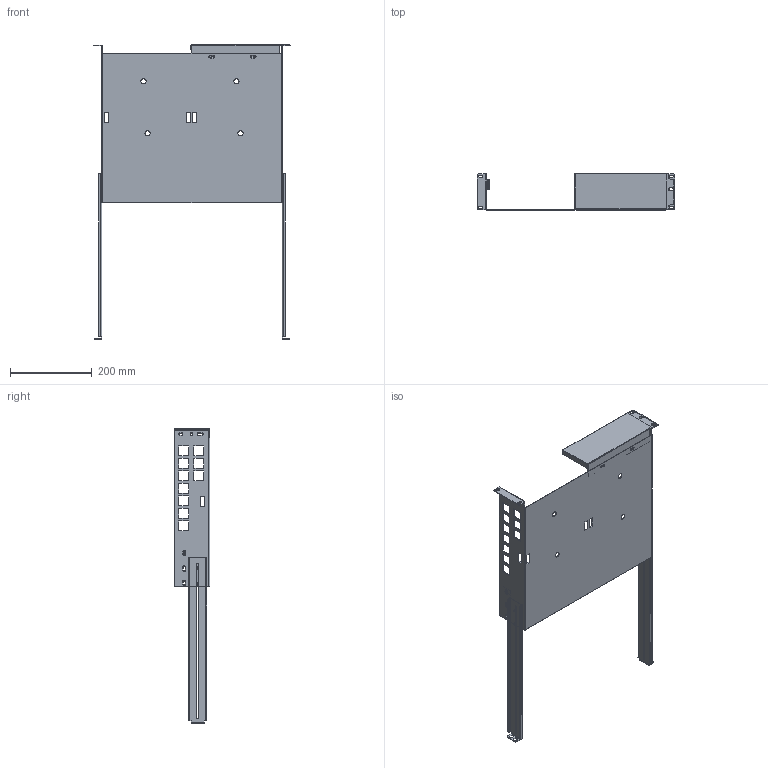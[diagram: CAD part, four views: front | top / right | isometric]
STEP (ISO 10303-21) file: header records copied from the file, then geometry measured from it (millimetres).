
FILE_DESCRIPTION((''),'2;1');
FILE_NAME('MODULE_RACKMOUNT_TRAY_LULE_01_ASM','2013-04-09T',('thnguyen'),(''),'PRO/ENGINEER BY PARAMETRIC TECHNOLOGY CORPORATION, 2011490','PRO/ENGINEER BY PARAMETRIC TECHNOLOGY CORPORATION, 2011490','');
FILE_SCHEMA(('CONFIG_CONTROL_DESIGN'));
Length unit declared in the file: inch
Products named in the file (10): RACKMOUNT_TRAY_LULE; FHS-832-6; RACKMOUNT_TRAY_LULE_ASM; BRKT_LOCK_RMOUNT_LULE; CLS-632-0; BRKT_LOCK_RMOUNT_LULE_ASM; BRKT_EXTENDED_RCKMNT_LULE; FRONT-PANEL_2U_LULE; FRONT-PANEL_COVER_2U_LULE_ASM; MODULE_RACKMOUNT_TRAY_LULE_01_ASM
Assembly tree (16 placements, depth 3):
  MODULE_RACKMOUNT_TRAY_LULE_01_ASM
    RACKMOUNT_TRAY_LULE_ASM
      RACKMOUNT_TRAY_LULE
      FHS-832-6  x4
    BRKT_LOCK_RMOUNT_LULE_ASM  x2
      BRKT_LOCK_RMOUNT_LULE
      CLS-632-0
    BRKT_EXTENDED_RCKMNT_LULE  x2
    FRONT-PANEL_COVER_2U_LULE_ASM
      FRONT-PANEL_2U_LULE
      CLS-632-0  x2
Bounding box: 482.7 x 88.11 x 720.85 mm (x, y, z)
Volume: 520593.3 mm3; surface area: 592688.4 mm2
Topology: 14 solids, 14 shells, 612 faces, 1516 edges, 944 vertices
Faces by surface type: plane 387, cylinder 201, cone 24
Entity records: 14251 total; most frequent: DIRECTION 2438, CARTESIAN_POINT 2403, ORIENTED_EDGE 2352, EDGE_CURVE 1176, VECTOR 892, LINE 892, AXIS2_PLACEMENT_3D 773, VERTEX_POINT 738
